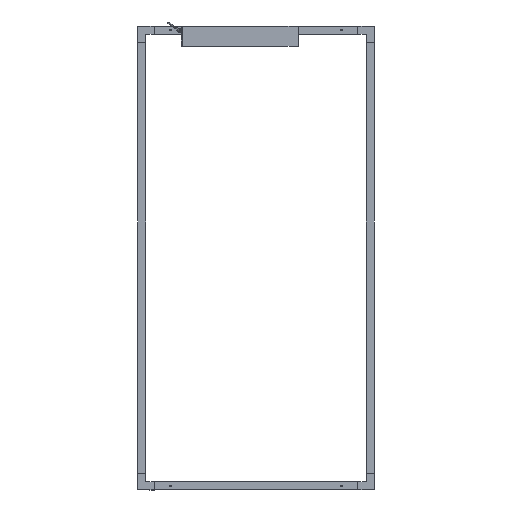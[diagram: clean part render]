
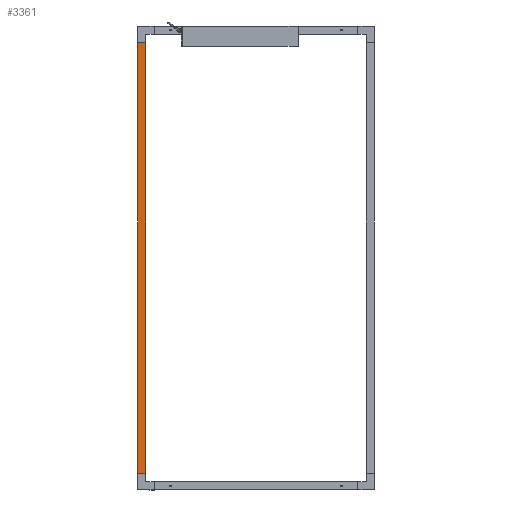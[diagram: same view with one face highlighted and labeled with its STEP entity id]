
A CAD part, left-side view. The second image highlights one B-rep face of the part: STEP entity #3361.
In plain terms, the highlighted planar face has unit normal (-1, 0, 0).
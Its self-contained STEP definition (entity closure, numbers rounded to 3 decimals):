
#293 = CARTESIAN_POINT ( 'NONE',  ( 0., -25.704, -1101.1 ) ) ;
#401 = DIRECTION ( 'NONE',  ( 0., 1., 0. ) ) ;
#535 = LINE ( 'NONE', #847, #1624 ) ;
#755 = DIRECTION ( 'NONE',  ( 0., 0., 1. ) ) ;
#800 = PLANE ( 'NONE',  #1543 ) ;
#847 = CARTESIAN_POINT ( 'NONE',  ( 0., -25.704, -1101.1 ) ) ;
#947 = CARTESIAN_POINT ( 'NONE',  ( 0., -25.704, -41.1 ) ) ;
#1239 = DIRECTION ( 'NONE',  ( 0., 0., 1. ) ) ;
#1543 = AXIS2_PLACEMENT_3D ( 'NONE', #4886, #3992, #1239 ) ;
#1624 = VECTOR ( 'NONE', #401, 1000. ) ;
#2052 = DIRECTION ( 'NONE',  ( 0., 1., 0. ) ) ;
#2253 = FACE_OUTER_BOUND ( 'NONE', #2520, .T. ) ;
#2338 = ORIENTED_EDGE ( 'NONE', *, *, #3128, .T. ) ;
#2488 = CARTESIAN_POINT ( 'NONE',  ( 0., -25.704, -1101.1 ) ) ;
#2515 = EDGE_CURVE ( 'NONE', #4762, #2867, #5183, .T. ) ;
#2520 = EDGE_LOOP ( 'NONE', ( #4016, #3086, #4194, #2338 ) ) ;
#2663 = VECTOR ( 'NONE', #2052, 1000. ) ;
#2723 = EDGE_CURVE ( 'NONE', #5462, #4762, #535, .T. ) ;
#2727 = CARTESIAN_POINT ( 'NONE',  ( 0., -45.704, -1101.1 ) ) ;
#2775 = VECTOR ( 'NONE', #755, 1000. ) ;
#2867 = VERTEX_POINT ( 'NONE', #947 ) ;
#2911 = CARTESIAN_POINT ( 'NONE',  ( 0., -45.704, -1101.1 ) ) ;
#3086 = ORIENTED_EDGE ( 'NONE', *, *, #2515, .F. ) ;
#3128 = EDGE_CURVE ( 'NONE', #5462, #4673, #5161, .T. ) ;
#3361 = ADVANCED_FACE ( 'NONE', ( #2253 ), #800, .F. ) ;
#3796 = VECTOR ( 'NONE', #5186, 1000. ) ;
#3799 = CARTESIAN_POINT ( 'NONE',  ( 0., -45.704, -41.1 ) ) ;
#3992 = DIRECTION ( 'NONE',  ( 1., 0., 0. ) ) ;
#4008 = LINE ( 'NONE', #5227, #2663 ) ;
#4016 = ORIENTED_EDGE ( 'NONE', *, *, #4291, .T. ) ;
#4194 = ORIENTED_EDGE ( 'NONE', *, *, #2723, .F. ) ;
#4291 = EDGE_CURVE ( 'NONE', #4673, #2867, #4008, .T. ) ;
#4673 = VERTEX_POINT ( 'NONE', #3799 ) ;
#4762 = VERTEX_POINT ( 'NONE', #2488 ) ;
#4886 = CARTESIAN_POINT ( 'NONE',  ( 0., -25.704, -1101.1 ) ) ;
#5161 = LINE ( 'NONE', #2911, #3796 ) ;
#5183 = LINE ( 'NONE', #293, #2775 ) ;
#5186 = DIRECTION ( 'NONE',  ( 0., 0., 1. ) ) ;
#5227 = CARTESIAN_POINT ( 'NONE',  ( 0., -25.704, -41.1 ) ) ;
#5462 = VERTEX_POINT ( 'NONE', #2727 ) ;
